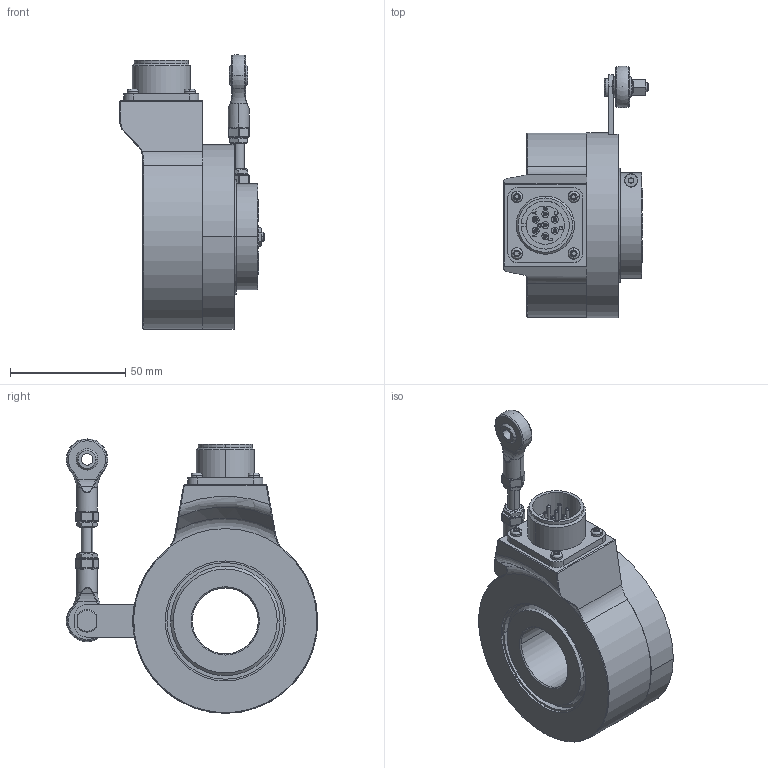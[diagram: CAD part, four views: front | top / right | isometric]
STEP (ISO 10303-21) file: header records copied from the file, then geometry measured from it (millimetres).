
FILE_DESCRIPTION (( 'STEP AP203' ), '1' );
FILE_NAME ('K80I.OXX.XXXXX.XH1588A.6XRCD.step', '2025-12-09T08:14:50', ( '' ), ( '' ), 'SwSTEP 2.0', 'SolidWorks 2021', '' );
FILE_SCHEMA (( 'CONFIG_CONTROL_DESIGN' ));
Length unit declared in the file: millimetre
Products named in the file (1): K80I.OXX.XXXXX.XH1588A.6XRCD
Bounding box: 62.6 x 108.97 x 119.08 mm (x, y, z)
Volume: 225008.2 mm3; surface area: 65944.2 mm2
Topology: 14 solids, 14 shells, 803 faces, 2006 edges, 1255 vertices
Faces by surface type: plane 297, cylinder 251, bspline 102, cone 91, torus 48, sphere 14
Entity records: 29094 total; most frequent: CARTESIAN_POINT 10364, ORIENTED_EDGE 3936, DIRECTION 3840, EDGE_CURVE 1968, AXIS2_PLACEMENT_3D 1480, VERTEX_POINT 1251, EDGE_LOOP 885, VECTOR 880
